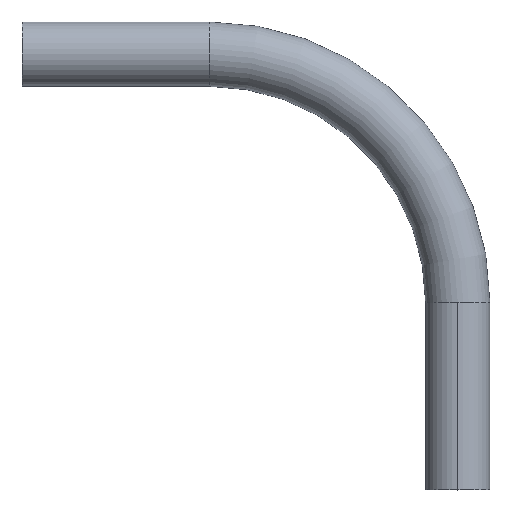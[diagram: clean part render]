
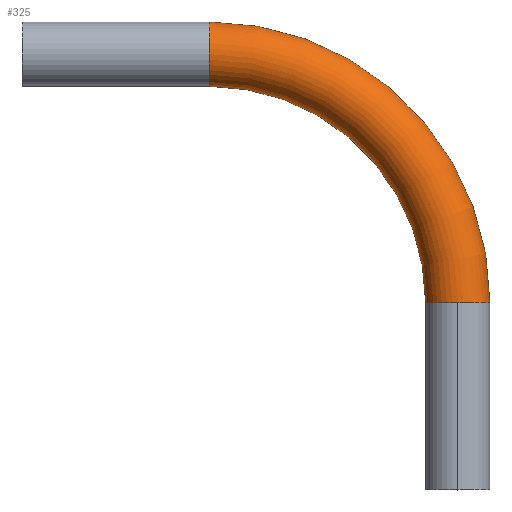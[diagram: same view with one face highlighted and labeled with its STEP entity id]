
A CAD part, top view. The second image highlights one B-rep face of the part: STEP entity #325.
In plain terms, the highlighted toroidal (fillet/blend) face has major radius 85 mm and minor radius 11 mm.
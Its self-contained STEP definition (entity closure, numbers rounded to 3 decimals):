
#3 = CARTESIAN_POINT ( 'NONE',  ( 0., 64., 11. ) ) ;
#9 = CARTESIAN_POINT ( 'NONE',  ( -11., 64., 0. ) ) ;
#45 = AXIS2_PLACEMENT_3D ( 'NONE', #475, #266, #252 ) ;
#57 = AXIS2_PLACEMENT_3D ( 'NONE', #407, #418, #420 ) ;
#58 = VERTEX_POINT ( 'NONE', #439 ) ;
#59 = DIRECTION ( 'NONE',  ( 0., -1., 0. ) ) ;
#72 = ORIENTED_EDGE ( 'NONE', *, *, #284, .T. ) ;
#88 = EDGE_LOOP ( 'NONE', ( #321, #162, #72, #302, #158 ) ) ;
#91 = CARTESIAN_POINT ( 'NONE',  ( -85., 64., 0. ) ) ;
#98 = DIRECTION ( 'NONE',  ( -1., 0., 0. ) ) ;
#113 = EDGE_CURVE ( 'NONE', #450, #380, #406, .T. ) ;
#117 = EDGE_CURVE ( 'NONE', #380, #492, #161, .T. ) ;
#119 = AXIS2_PLACEMENT_3D ( 'NONE', #454, #388, #195 ) ;
#132 = DIRECTION ( 'NONE',  ( -1., 0., 0. ) ) ;
#148 = CARTESIAN_POINT ( 'NONE',  ( -85., 149., 0. ) ) ;
#158 = ORIENTED_EDGE ( 'NONE', *, *, #117, .T. ) ;
#161 = CIRCLE ( 'NONE', #45, 11. ) ;
#162 = ORIENTED_EDGE ( 'NONE', *, *, #316, .F. ) ;
#187 = CARTESIAN_POINT ( 'NONE',  ( -85., 64., 0. ) ) ;
#195 = DIRECTION ( 'NONE',  ( -1., 0., 0. ) ) ;
#204 = EDGE_CURVE ( 'NONE', #58, #492, #443, .T. ) ;
#222 = AXIS2_PLACEMENT_3D ( 'NONE', #187, #383, #98 ) ;
#252 = DIRECTION ( 'NONE',  ( -1., 0., 0. ) ) ;
#266 = DIRECTION ( 'NONE',  ( 0., 1., 0. ) ) ;
#284 = EDGE_CURVE ( 'NONE', #436, #450, #458, .T. ) ;
#302 = ORIENTED_EDGE ( 'NONE', *, *, #113, .T. ) ;
#316 = EDGE_CURVE ( 'NONE', #436, #58, #451, .T. ) ;
#321 = ORIENTED_EDGE ( 'NONE', *, *, #204, .F. ) ;
#325 = ADVANCED_FACE ( 'NONE', ( #449 ), #457, .T. ) ;
#338 = CARTESIAN_POINT ( 'NONE',  ( 11., 64., 0. ) ) ;
#342 = AXIS2_PLACEMENT_3D ( 'NONE', #91, #373, #132 ) ;
#373 = DIRECTION ( 'NONE',  ( 0., 0., -1. ) ) ;
#376 = CARTESIAN_POINT ( 'NONE',  ( -85., 138., 0. ) ) ;
#380 = VERTEX_POINT ( 'NONE', #3 ) ;
#383 = DIRECTION ( 'NONE',  ( 0., 0., -1. ) ) ;
#388 = DIRECTION ( 'NONE',  ( 0., 0., -1. ) ) ;
#406 = CIRCLE ( 'NONE', #57, 11. ) ;
#407 = CARTESIAN_POINT ( 'NONE',  ( 0., 64., 0. ) ) ;
#417 = AXIS2_PLACEMENT_3D ( 'NONE', #148, #478, #59 ) ;
#418 = DIRECTION ( 'NONE',  ( 0., 1., 0. ) ) ;
#420 = DIRECTION ( 'NONE',  ( -1., 0., 0. ) ) ;
#436 = VERTEX_POINT ( 'NONE', #376 ) ;
#439 = CARTESIAN_POINT ( 'NONE',  ( -85., 160., 0. ) ) ;
#443 = CIRCLE ( 'NONE', #342, 96. ) ;
#449 = FACE_OUTER_BOUND ( 'NONE', #88, .T. ) ;
#450 = VERTEX_POINT ( 'NONE', #9 ) ;
#451 = CIRCLE ( 'NONE', #417, 11. ) ;
#454 = CARTESIAN_POINT ( 'NONE',  ( -85., 64., 0. ) ) ;
#457 = TOROIDAL_SURFACE ( 'NONE', #222, 85., 11. ) ;
#458 = CIRCLE ( 'NONE', #119, 74. ) ;
#475 = CARTESIAN_POINT ( 'NONE',  ( 0., 64., 0. ) ) ;
#478 = DIRECTION ( 'NONE',  ( -1., 0., 0. ) ) ;
#492 = VERTEX_POINT ( 'NONE', #338 ) ;
